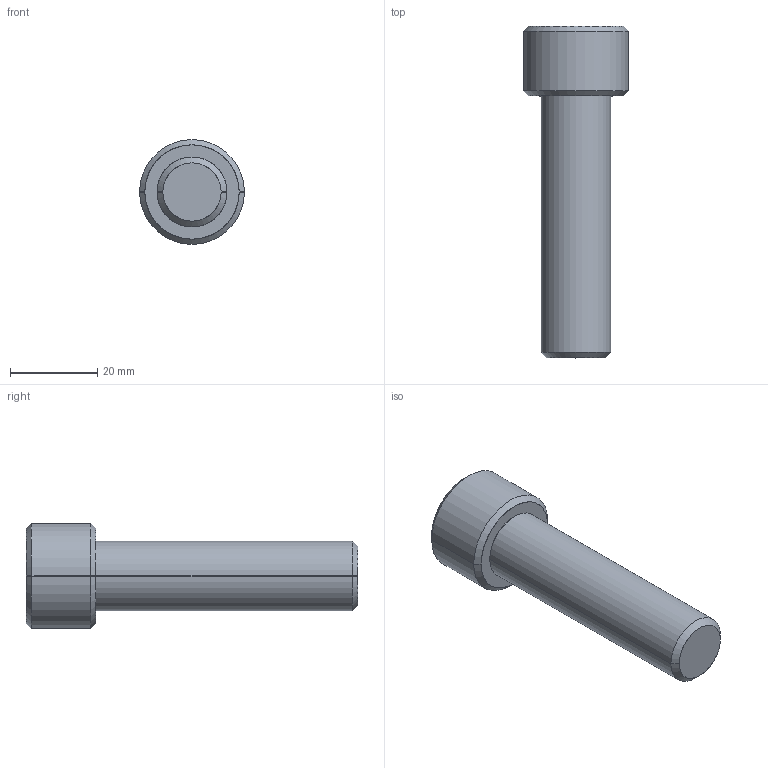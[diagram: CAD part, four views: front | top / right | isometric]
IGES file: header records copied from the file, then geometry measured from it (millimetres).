
Start section: SolidWorks IGES file using analytic representation for surfaces
Global section: file name: D:\Cleonir_arquivos\MT_15_07\Parafuso Allen Cabeça Cilindrica\CLM16060.igs; native system: SolidWorks 2013; preprocessor: SolidWorks 2013; author: Cleonir; date: 130730.130218; units: millimetre
Bounding box: 24 x 76 x 24 mm (x, y, z)
Surface area: 5542 mm2 (no closed solid volume)
Topology: 0 solids, 0 shells, 282 faces, 2483 edges, 2483 vertices
Faces by surface type: bspline 264, revolution 18
